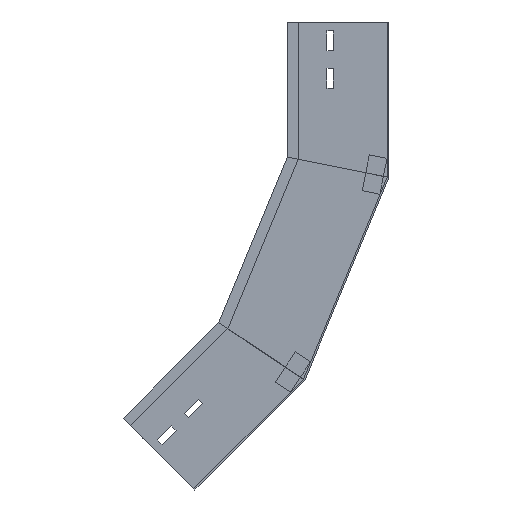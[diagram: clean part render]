
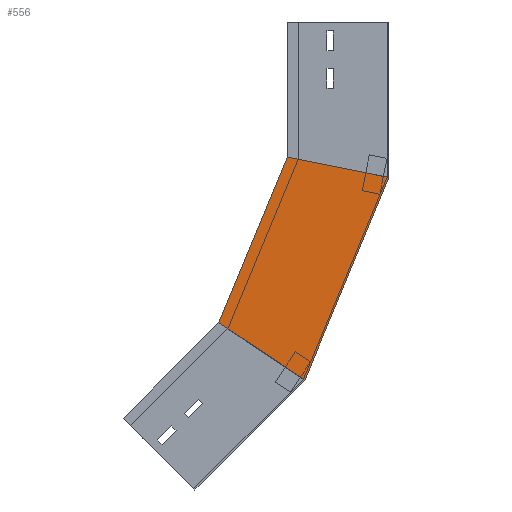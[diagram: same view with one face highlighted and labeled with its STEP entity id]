
A CAD part, left-side view. The second image highlights one B-rep face of the part: STEP entity #556.
In plain terms, the highlighted planar face has unit normal (-1, 0, 0) as drawn and (1, 0, 0) by its records, which use the part's own axes.
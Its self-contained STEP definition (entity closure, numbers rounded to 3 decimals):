
#76 = EDGE_CURVE ( 'NONE', #658, #198, #1421, .T. ) ;
#116 = VERTEX_POINT ( 'NONE', #1191 ) ;
#141 = DIRECTION ( 'NONE',  ( -1., 0., 0. ) ) ;
#143 = DIRECTION ( 'NONE',  ( 0., -0.981, -0.195 ) ) ;
#150 = VECTOR ( 'NONE', #1088, 1000. ) ;
#167 = VECTOR ( 'NONE', #143, 1000. ) ;
#187 = ORIENTED_EDGE ( 'NONE', *, *, #754, .F. ) ;
#188 = LINE ( 'NONE', #1213, #1035 ) ;
#192 = LINE ( 'NONE', #203, #582 ) ;
#198 = VERTEX_POINT ( 'NONE', #871 ) ;
#203 = CARTESIAN_POINT ( 'NONE',  ( 0., 103.936, -129.048 ) ) ;
#249 = PLANE ( 'NONE',  #1060 ) ;
#256 = ORIENTED_EDGE ( 'NONE', *, *, #267, .F. ) ;
#267 = EDGE_CURVE ( 'NONE', #1366, #198, #188, .T. ) ;
#268 = EDGE_LOOP ( 'NONE', ( #187, #712, #702, #256 ) ) ;
#371 = LINE ( 'NONE', #846, #167 ) ;
#407 = CARTESIAN_POINT ( 'NONE',  ( 0., 0., -172.1 ) ) ;
#498 = FACE_OUTER_BOUND ( 'NONE', #268, .T. ) ;
#556 = ADVANCED_FACE ( 'NONE', ( #498 ), #249, .F. ) ;
#582 = VECTOR ( 'NONE', #1044, 1000. ) ;
#597 = DIRECTION ( 'NONE',  ( 0., 0., 1. ) ) ;
#658 = VERTEX_POINT ( 'NONE', #407 ) ;
#702 = ORIENTED_EDGE ( 'NONE', *, *, #76, .T. ) ;
#712 = ORIENTED_EDGE ( 'NONE', *, *, #1351, .T. ) ;
#754 = EDGE_CURVE ( 'NONE', #116, #1366, #192, .T. ) ;
#846 = CARTESIAN_POINT ( 'NONE',  ( 0., 32.93, -165.55 ) ) ;
#871 = CARTESIAN_POINT ( 'NONE',  ( 0., 93.03, -396.695 ) ) ;
#975 = CARTESIAN_POINT ( 'NONE',  ( 0., 188.403, -332.969 ) ) ;
#1035 = VECTOR ( 'NONE', #1445, 1000. ) ;
#1044 = DIRECTION ( 'NONE',  ( 0., 0.383, -0.924 ) ) ;
#1060 = AXIS2_PLACEMENT_3D ( 'NONE', #1185, #141, #597 ) ;
#1063 = CARTESIAN_POINT ( 'NONE',  ( 0., 0., -172.1 ) ) ;
#1088 = DIRECTION ( 'NONE',  ( 0., 0.383, -0.924 ) ) ;
#1185 = CARTESIAN_POINT ( 'NONE',  ( 0., 0., -172.1 ) ) ;
#1191 = CARTESIAN_POINT ( 'NONE',  ( 0., 112.5, -149.722 ) ) ;
#1213 = CARTESIAN_POINT ( 'NONE',  ( 0., 132.464, -370.346 ) ) ;
#1351 = EDGE_CURVE ( 'NONE', #116, #658, #371, .T. ) ;
#1366 = VERTEX_POINT ( 'NONE', #975 ) ;
#1421 = LINE ( 'NONE', #1063, #150 ) ;
#1445 = DIRECTION ( 'NONE',  ( 0., -0.831, -0.556 ) ) ;
